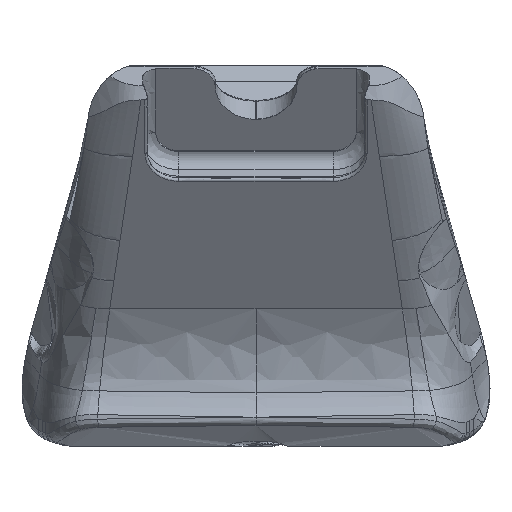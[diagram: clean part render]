
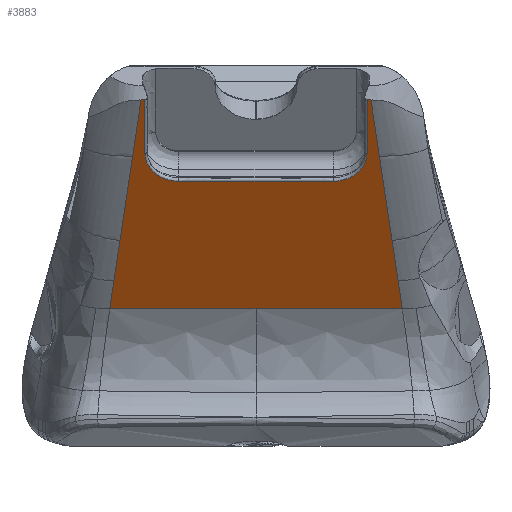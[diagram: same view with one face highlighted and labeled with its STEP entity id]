
A CAD part, top view. The second image highlights one B-rep face of the part: STEP entity #3883.
In plain terms, the highlighted planar face has unit normal (0, -0.574, 0.819).
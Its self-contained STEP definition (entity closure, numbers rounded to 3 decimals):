
#139=LINE('',#8852,#270);
#200=LINE('',#22099,#331);
#203=LINE('',#22619,#334);
#204=LINE('',#23292,#335);
#209=LINE('',#23972,#340);
#211=LINE('',#24724,#342);
#212=LINE('',#25808,#343);
#213=LINE('',#26784,#344);
#214=LINE('',#27307,#345);
#216=LINE('',#27574,#347);
#270=VECTOR('',#4095,10.891);
#331=VECTOR('',#4168,10.);
#334=VECTOR('',#4185,7.582);
#335=VECTOR('',#4186,32.237);
#340=VECTOR('',#4191,10.891);
#342=VECTOR('',#4197,32.237);
#343=VECTOR('',#4208,10.);
#344=VECTOR('',#4209,10.);
#345=VECTOR('',#4210,10.);
#347=VECTOR('',#4214,7.582);
#399=PLANE('',#3976);
#610=FACE_OUTER_BOUND('',#836,.T.);
#836=EDGE_LOOP('',(#3410,#3411,#3412,#3413,#3414,#3415,#3416,#3417,#3418,
#3419,#3420,#3421,#3422,#3423,#3424,#3425,#3426));
#1219=B_SPLINE_CURVE_WITH_KNOTS('',3,(#22296,#22297,#22298,#22299),
 .UNSPECIFIED.,.F.,.F.,(4,4),(-1.799,-0.357),
 .UNSPECIFIED.);
#1243=B_SPLINE_CURVE_WITH_KNOTS('',3,(#24784,#24785,#24786,#24787),
 .UNSPECIFIED.,.F.,.F.,(4,4),(-3.4,0.),.UNSPECIFIED.);
#1248=B_SPLINE_CURVE_WITH_KNOTS('',3,(#27352,#27353,#27354,#27355,#27356,
#27357),.UNSPECIFIED.,.F.,.F.,(4,1,1,4),(-1.173,-0.838,
-0.503,0.),.UNSPECIFIED.);
#1251=B_SPLINE_CURVE_WITH_KNOTS('',3,(#27726,#27727,#27728,#27729,#27730,
#27731),.UNSPECIFIED.,.F.,.F.,(4,2,4),(-0.62,-0.566,
-0.322),.UNSPECIFIED.);
#1253=B_SPLINE_CURVE_WITH_KNOTS('',3,(#27785,#27786,#27787,#27788,#27789,
#27790),.UNSPECIFIED.,.F.,.F.,(4,1,1,4),(-1.173,-0.838,
-0.503,0.),.UNSPECIFIED.);
#1269=B_SPLINE_CURVE_WITH_KNOTS('',3,(#28250,#28251,#28252,#28253,#28254,
#28255),.UNSPECIFIED.,.F.,.F.,(4,2,4),(1.153,1.162,
1.216),.UNSPECIFIED.);
#1271=B_SPLINE_CURVE_WITH_KNOTS('',3,(#28279,#28280,#28281,#28282),
 .UNSPECIFIED.,.F.,.F.,(4,4),(-1.442,0.),
 .UNSPECIFIED.);
#1457=VERTEX_POINT('',#8834);
#1458=VERTEX_POINT('',#8851);
#1589=VERTEX_POINT('',#20961);
#1595=VERTEX_POINT('',#22060);
#1596=VERTEX_POINT('',#22098);
#1605=VERTEX_POINT('',#22268);
#1608=VERTEX_POINT('',#22294);
#1612=VERTEX_POINT('',#22602);
#1613=VERTEX_POINT('',#23220);
#1614=VERTEX_POINT('',#23291);
#1632=VERTEX_POINT('',#24781);
#1633=VERTEX_POINT('',#24783);
#1635=VERTEX_POINT('',#25769);
#1636=VERTEX_POINT('',#25807);
#1637=VERTEX_POINT('',#26773);
#1640=VERTEX_POINT('',#27783);
#1668=VERTEX_POINT('',#28249);
#1918=EDGE_CURVE('',#1458,#1457,#139,.T.);
#2149=EDGE_CURVE('',#1595,#1596,#200,.T.);
#2162=EDGE_CURVE('',#1608,#1605,#1219,.T.);
#2170=EDGE_CURVE('',#1612,#1589,#203,.T.);
#2172=EDGE_CURVE('',#1613,#1614,#204,.T.);
#2189=EDGE_CURVE('',#1596,#1612,#209,.T.);
#2198=EDGE_CURVE('',#1613,#1589,#211,.T.);
#2203=EDGE_CURVE('',#1632,#1633,#1243,.T.);
#2208=EDGE_CURVE('',#1636,#1635,#212,.T.);
#2211=EDGE_CURVE('',#1637,#1595,#213,.T.);
#2212=EDGE_CURVE('',#1635,#1458,#214,.T.);
#2214=EDGE_CURVE('',#1633,#1608,#1248,.T.);
#2215=EDGE_CURVE('',#1457,#1614,#216,.T.);
#2218=EDGE_CURVE('',#1637,#1605,#1251,.T.);
#2221=EDGE_CURVE('',#1640,#1632,#1253,.T.);
#2263=EDGE_CURVE('',#1636,#1668,#1269,.T.);
#2267=EDGE_CURVE('',#1668,#1640,#1271,.T.);
#3410=ORIENTED_EDGE('',*,*,#2263,.F.);
#3411=ORIENTED_EDGE('',*,*,#2208,.T.);
#3412=ORIENTED_EDGE('',*,*,#2212,.T.);
#3413=ORIENTED_EDGE('',*,*,#1918,.T.);
#3414=ORIENTED_EDGE('',*,*,#2215,.T.);
#3415=ORIENTED_EDGE('',*,*,#2172,.F.);
#3416=ORIENTED_EDGE('',*,*,#2198,.T.);
#3417=ORIENTED_EDGE('',*,*,#2170,.F.);
#3418=ORIENTED_EDGE('',*,*,#2189,.F.);
#3419=ORIENTED_EDGE('',*,*,#2149,.F.);
#3420=ORIENTED_EDGE('',*,*,#2211,.F.);
#3421=ORIENTED_EDGE('',*,*,#2218,.T.);
#3422=ORIENTED_EDGE('',*,*,#2162,.F.);
#3423=ORIENTED_EDGE('',*,*,#2214,.F.);
#3424=ORIENTED_EDGE('',*,*,#2203,.F.);
#3425=ORIENTED_EDGE('',*,*,#2221,.F.);
#3426=ORIENTED_EDGE('',*,*,#2267,.F.);
#3883=ADVANCED_FACE('',(#610),#399,.T.);
#3976=AXIS2_PLACEMENT_3D('',#28278,#4266,#4267);
#4095=DIRECTION('',(-0.122,-0.813,-0.569));
#4168=DIRECTION('',(0.122,-0.813,-0.569));
#4185=DIRECTION('',(0.122,-0.813,-0.569));
#4186=DIRECTION('',(-1.,0.,0.));
#4191=DIRECTION('',(0.122,-0.813,-0.569));
#4197=DIRECTION('',(1.,0.,0.));
#4208=DIRECTION('',(-0.122,-0.813,-0.569));
#4209=DIRECTION('',(0.122,-0.813,-0.569));
#4210=DIRECTION('',(-0.122,-0.813,-0.569));
#4214=DIRECTION('',(-0.122,-0.813,-0.569));
#4266=DIRECTION('center_axis',(0.,-0.574,0.819));
#4267=DIRECTION('ref_axis',(0.,0.819,0.574));
#8834=CARTESIAN_POINT('',(-31.313,-27.694,33.24));
#8851=CARTESIAN_POINT('',(-29.986,-18.84,39.441));
#8852=CARTESIAN_POINT('',(-29.986,-18.84,39.441));
#20961=CARTESIAN_POINT('',(32.237,-33.859,28.924));
#22060=CARTESIAN_POINT('',(27.203,-0.273,52.441));
#22098=CARTESIAN_POINT('',(29.986,-18.84,39.441));
#22099=CARTESIAN_POINT('',(27.203,-0.273,52.441));
#22268=CARTESIAN_POINT('',(24.467,12.154,61.142));
#22294=CARTESIAN_POINT('',(24.467,0.341,52.871));
#22296=CARTESIAN_POINT('Ctrl Pts',(24.467,0.341,52.871));
#22297=CARTESIAN_POINT('Ctrl Pts',(24.467,4.279,55.628));
#22298=CARTESIAN_POINT('Ctrl Pts',(24.467,8.216,58.385));
#22299=CARTESIAN_POINT('Ctrl Pts',(24.467,12.154,61.142));
#22602=CARTESIAN_POINT('',(31.313,-27.694,33.24));
#22619=CARTESIAN_POINT('',(31.313,-27.694,33.24));
#23220=CARTESIAN_POINT('',(0.,-33.859,28.924));
#23291=CARTESIAN_POINT('',(-32.237,-33.859,28.924));
#23292=CARTESIAN_POINT('',(0.,-33.859,28.924));
#23972=CARTESIAN_POINT('',(29.986,-18.84,39.441));
#24724=CARTESIAN_POINT('',(0.,-33.859,28.924));
#24781=CARTESIAN_POINT('',(-17.,-5.776,48.588));
#24783=CARTESIAN_POINT('',(17.,-5.776,48.588));
#24784=CARTESIAN_POINT('Ctrl Pts',(-17.,-5.776,48.588));
#24785=CARTESIAN_POINT('Ctrl Pts',(-5.667,-5.776,
48.588));
#24786=CARTESIAN_POINT('Ctrl Pts',(5.667,-5.776,48.588));
#24787=CARTESIAN_POINT('Ctrl Pts',(17.,-5.776,48.588));
#25769=CARTESIAN_POINT('',(-27.203,-0.273,52.441));
#25807=CARTESIAN_POINT('',(-25.339,12.16,61.147));
#25808=CARTESIAN_POINT('',(-25.339,12.16,61.147));
#26773=CARTESIAN_POINT('',(25.339,12.16,61.147));
#26784=CARTESIAN_POINT('',(25.339,12.16,61.147));
#27307=CARTESIAN_POINT('',(-27.203,-0.273,52.441));
#27352=CARTESIAN_POINT('Ctrl Pts',(17.,-5.776,48.588));
#27353=CARTESIAN_POINT('Ctrl Pts',(18.117,-5.776,48.588));
#27354=CARTESIAN_POINT('Ctrl Pts',(20.347,-5.357,48.881));
#27355=CARTESIAN_POINT('Ctrl Pts',(23.488,-3.311,50.314));
#27356=CARTESIAN_POINT('Ctrl Pts',(24.467,-1.032,51.91));
#27357=CARTESIAN_POINT('Ctrl Pts',(24.467,0.341,52.871));
#27574=CARTESIAN_POINT('',(-31.313,-27.694,33.24));
#27726=CARTESIAN_POINT('Ctrl Pts',(25.339,12.16,61.147));
#27727=CARTESIAN_POINT('Ctrl Pts',(25.314,12.161,61.147));
#27728=CARTESIAN_POINT('Ctrl Pts',(25.289,12.161,61.148));
#27729=CARTESIAN_POINT('Ctrl Pts',(25.147,12.163,61.149));
#27730=CARTESIAN_POINT('Ctrl Pts',(25.036,12.161,61.148));
#27731=CARTESIAN_POINT('Ctrl Pts',(24.467,12.154,61.142));
#27783=CARTESIAN_POINT('',(-24.467,0.341,52.871));
#27785=CARTESIAN_POINT('Ctrl Pts',(-24.467,0.341,
52.871));
#27786=CARTESIAN_POINT('Ctrl Pts',(-24.467,-0.574,
52.23));
#27787=CARTESIAN_POINT('Ctrl Pts',(-23.956,-2.401,
50.951));
#27788=CARTESIAN_POINT('Ctrl Pts',(-21.458,-4.974,
49.15));
#27789=CARTESIAN_POINT('Ctrl Pts',(-18.676,-5.776,
48.588));
#27790=CARTESIAN_POINT('Ctrl Pts',(-17.,-5.776,48.588));
#28249=CARTESIAN_POINT('',(-24.467,12.154,61.142));
#28250=CARTESIAN_POINT('Ctrl Pts',(-25.339,12.16,61.147));
#28251=CARTESIAN_POINT('Ctrl Pts',(-25.319,12.161,61.147));
#28252=CARTESIAN_POINT('Ctrl Pts',(-25.298,12.161,61.148));
#28253=CARTESIAN_POINT('Ctrl Pts',(-25.158,12.163,61.149));
#28254=CARTESIAN_POINT('Ctrl Pts',(-25.044,12.161,61.148));
#28255=CARTESIAN_POINT('Ctrl Pts',(-24.467,12.154,61.142));
#28278=CARTESIAN_POINT('Origin',(0.,-33.859,28.924));
#28279=CARTESIAN_POINT('Ctrl Pts',(-24.467,12.154,61.142));
#28280=CARTESIAN_POINT('Ctrl Pts',(-24.467,8.216,58.385));
#28281=CARTESIAN_POINT('Ctrl Pts',(-24.467,4.279,55.628));
#28282=CARTESIAN_POINT('Ctrl Pts',(-24.467,0.341,
52.871));
